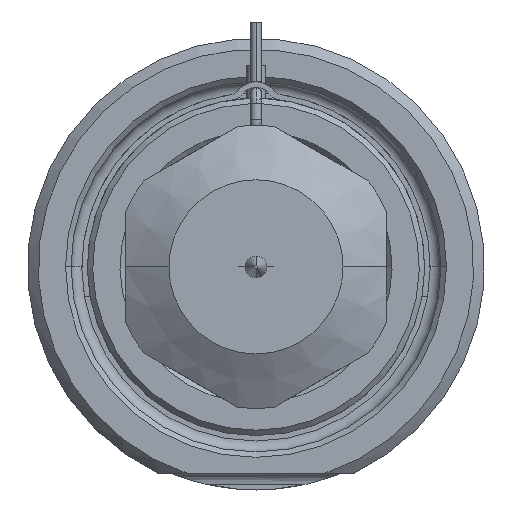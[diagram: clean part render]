
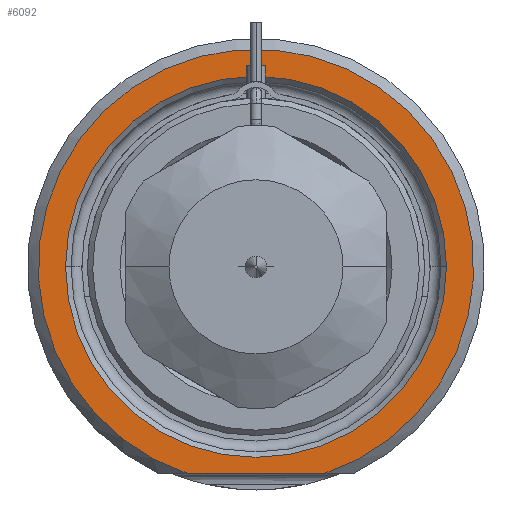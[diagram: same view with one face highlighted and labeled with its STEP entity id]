
A CAD part, front view. The second image highlights one B-rep face of the part: STEP entity #6092.
In plain terms, the highlighted planar face has unit normal (0, -1, 0).
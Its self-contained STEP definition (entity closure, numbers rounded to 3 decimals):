
#2330=DIRECTION('',(1.,0.,0.));
#2331=VECTOR('',#2330,12.49);
#2332=CARTESIAN_POINT('',(-6.245,0.,-19.));
#2333=LINE('',#2332,#2331);
#2334=CARTESIAN_POINT('',(0.,0.,0.));
#2335=DIRECTION('',(0.,1.,0.));
#2336=DIRECTION('',(-1.,0.,0.));
#2337=AXIS2_PLACEMENT_3D('',#2334,#2335,#2336);
#2339=CARTESIAN_POINT('',(0.,0.,0.));
#2340=DIRECTION('',(0.,1.,0.));
#2341=DIRECTION('',(1.,0.,0.));
#2342=AXIS2_PLACEMENT_3D('',#2339,#2340,#2341);
#2448=CARTESIAN_POINT('',(0.,0.,0.));
#2449=DIRECTION('',(0.,-1.,0.));
#2450=DIRECTION('',(0.312,0.,-0.95));
#2451=AXIS2_PLACEMENT_3D('',#2448,#2449,#2450);
#3409=CARTESIAN_POINT('',(-17.5,0.,0.));
#3410=CARTESIAN_POINT('',(17.5,0.,0.));
#3411=VERTEX_POINT('',#3409);
#3412=VERTEX_POINT('',#3410);
#3467=CARTESIAN_POINT('',(-6.245,0.,-19.));
#3468=CARTESIAN_POINT('',(6.245,0.,-19.));
#3469=VERTEX_POINT('',#3467);
#3470=VERTEX_POINT('',#3468);
#6076=CARTESIAN_POINT('',(0.,0.,0.));
#6077=DIRECTION('',(0.,-1.,0.));
#6078=DIRECTION('',(1.,0.,0.));
#6079=AXIS2_PLACEMENT_3D('',#6076,#6077,#6078);
#6080=PLANE('',#6079);
#6082=ORIENTED_EDGE('',*,*,#6081,.F.);
#6084=ORIENTED_EDGE('',*,*,#6083,.F.);
#6085=EDGE_LOOP('',(#6082,#6084));
#6086=FACE_OUTER_BOUND('',#6085,.F.);
#6087=ORIENTED_EDGE('',*,*,#6066,.F.);
#6089=ORIENTED_EDGE('',*,*,#6088,.F.);
#6090=EDGE_LOOP('',(#6087,#6089));
#6091=FACE_BOUND('',#6090,.F.);
#6092=ADVANCED_FACE('',(#6086,#6091),#6080,.T.);
#2338=CIRCLE('',#2337,17.5);
#2343=CIRCLE('',#2342,17.5);
#2452=CIRCLE('',#2451,20.);
#6066=EDGE_CURVE('',#3411,#3412,#2338,.T.);
#6081=EDGE_CURVE('',#3469,#3470,#2333,.T.);
#6083=EDGE_CURVE('',#3470,#3469,#2452,.T.);
#6088=EDGE_CURVE('',#3412,#3411,#2343,.T.);
